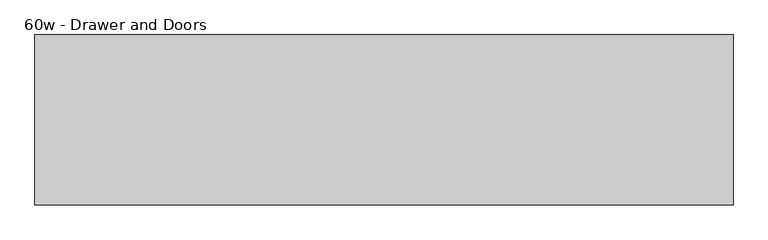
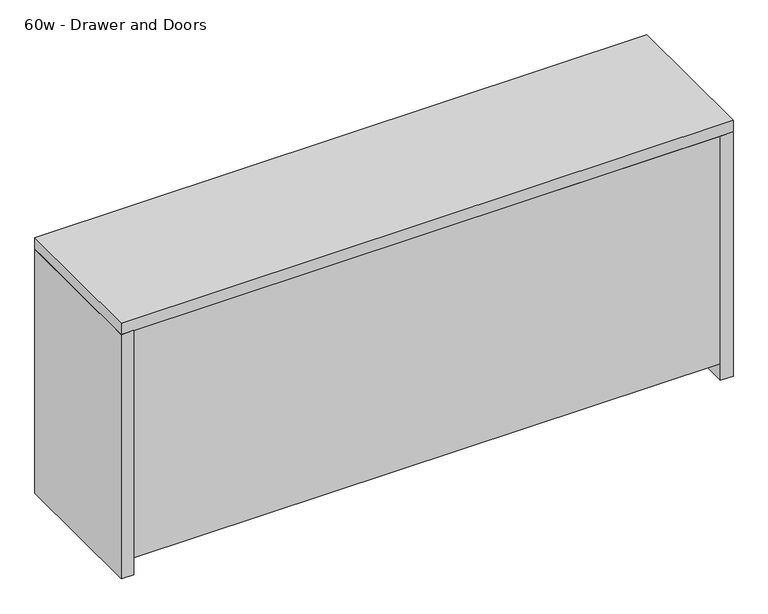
"""IFC4 building model written with IfcOpenShell, lengths in millimetres: furniture geometry, Haworth_ASeries_Credenza_2High : 60w - Drawer and Doors."""

from ifc_helpers import new_model, si_unit, frame, origin, origin_with_axes, place, context, project, spatial, polyline, outline, extrude, source, transform, mapped, element, save


def furniture_60w_drawer_and_doors_feebf411(model_context):
    return source(origin(), model_context, "Body", "SweptSolid", [
        extrude(outline(polyline([(-744.5375, 371.475), (-441.325, 371.475), (-441.325, 352.425), (-744.5375, 352.425), (-744.5375, 371.475)])), frame((0.0, 0.0, 50.8), z_axis=(0.0, 0.0, 1.0), x_axis=(1.0, 0.0, 0.0)), (0.0, 0.0, 1.0), 436.5625),
        extrude(outline(polyline([(-134.9375, 371.475), (-134.9375, 352.425), (-438.15, 352.425), (-438.15, 371.475), (-134.9375, 371.475)])), frame((0.0, 0.0, 50.8), z_axis=(0.0, 0.0, 1.0), x_axis=(1.0, 0.0, 0.0)), (0.0, 0.0, 1.0), 436.5625),
        extrude(outline(polyline([(352.425, 490.5375), (352.425, 642.9375), (358.775, 642.9375), (358.775, 628.65), (371.475, 628.65), (371.475, 490.5375), (352.425, 490.5375)])), frame((-744.5375, 0.0, 0.0), z_axis=(1.0, 0.0, 0.0), x_axis=(0.0, 1.0, 0.0)), (0.0, 0.0, 1.0), 609.6),
        extrude(outline(polyline([(290.5125, 19.05), (-131.7625, 19.05), (-131.7625, 350.8375), (290.5125, 350.8375), (290.5125, 19.05)])), frame((0.0, 0.0, 387.35), z_axis=(0.0, 0.0, 1.0), x_axis=(1.0, 0.0, 0.0)), (0.0, 0.0, 1.0), 19.05),
        extrude(outline(polyline([(-747.7125, 19.05), (-1169.9875, 19.05), (-1169.9875, 350.8375), (-747.7125, 350.8375), (-747.7125, 19.05)])), frame((0.0, 0.0, 387.35), z_axis=(0.0, 0.0, 1.0), x_axis=(1.0, 0.0, 0.0)), (0.0, 0.0, 1.0), 19.05),
        extrude(outline(polyline([(-150.8125, 19.05), (-728.6625, 19.05), (-728.6625, 350.8375), (-150.8125, 350.8375), (-150.8125, 19.05)])), frame((0.0, 0.0, 488.95), z_axis=(0.0, 0.0, 1.0), x_axis=(1.0, 0.0, 0.0)), (0.0, 0.0, 1.0), 19.05),
        extrude(outline(polyline([(-131.7625, 19.05), (-150.8125, 19.05), (-150.8125, 350.8375), (-131.7625, 350.8375), (-131.7625, 19.05)])), frame((0.0, 0.0, 63.5), z_axis=(0.0, 0.0, 1.0), x_axis=(1.0, 0.0, 0.0)), (0.0, 0.0, 1.0), 579.4375),
        extrude(outline(polyline([(352.425, 0.0), (350.8375, 0.0), (350.8375, 61.9125), (20.6375, 61.9125), (20.6375, 44.45), (19.05, 44.45), (19.05, 63.5), (352.425, 63.5), (352.425, 0.0)])), frame((-1169.9875, 0.0, 0.0), z_axis=(1.0, 0.0, 0.0), x_axis=(0.0, 1.0, 0.0)), (0.0, 0.0, 1.0), 1460.5),
        extrude(outline(polyline([(-728.6625, 352.425), (-728.6625, 19.05), (-747.7125, 19.05), (-747.7125, 352.425), (-728.6625, 352.425)])), frame((0.0, 0.0, 63.5), z_axis=(0.0, 0.0, 1.0), x_axis=(1.0, 0.0, 0.0)), (0.0, 0.0, 1.0), 579.4375),
        extrude(outline(polyline([(-1201.7375, 0.0), (-1201.7375, 371.475), (-1169.9875, 371.475), (-1169.9875, 0.0), (-1201.7375, 0.0)])), origin_with_axes(), (0.0, 0.0, 1.0), 642.9375),
        extrude(outline(polyline([(322.2625, 371.475), (322.2625, 0.0), (290.5125, 0.0), (290.5125, 371.475), (322.2625, 371.475)])), origin_with_axes(), (0.0, 0.0, 1.0), 642.9375),
        extrude(outline(polyline([(322.2625, 0.0), (-1201.7375, 0.0), (-1201.7375, 371.475), (322.2625, 371.475), (322.2625, 0.0)])), frame((0.0, 0.0, 642.9375), z_axis=(0.0, 0.0, 1.0), x_axis=(1.0, 0.0, 0.0)), (0.0, 0.0, 1.0), 30.1625),
        extrude(outline(polyline([(290.5125, 0.0), (-1169.9875, 0.0), (-1169.9875, 19.05), (290.5125, 19.05), (290.5125, 0.0)])), frame((0.0, 0.0, 44.45), z_axis=(0.0, 0.0, 1.0), x_axis=(1.0, 0.0, 0.0)), (0.0, 0.0, 1.0), 598.4875),
    ])


if __name__ == "__main__":
    model = new_model("IFC4")
    model_context = context("Model", 3, world=origin())
    ifc_project = project(units=[si_unit("LENGTHUNIT", "METRE", prefix="MILLI")], contexts=[model_context])
    site = spatial("IfcSite", under=ifc_project)
    building = spatial("IfcBuilding", under=site)
    placement = place(None, origin())
    furniture_60w_drawer_and_doors_shape = furniture_60w_drawer_and_doors_feebf411(model_context)
    element("IfcFurniture", 1, ObjectType="Haworth_ASeries_Credenza_2High : 60w - Drawer and Doors", at=placement, inside=building, context=model_context, shape_type="MappedRepresentation", body=[
        mapped(furniture_60w_drawer_and_doors_shape, transform((0.0, 0.0, 0.0), x_axis=(1.0, 0.0, 0.0), y_axis=(0.0, 1.0, 0.0), z_axis=(0.0, 0.0, 1.0))),
    ])
    save(model, "model.ifc")
